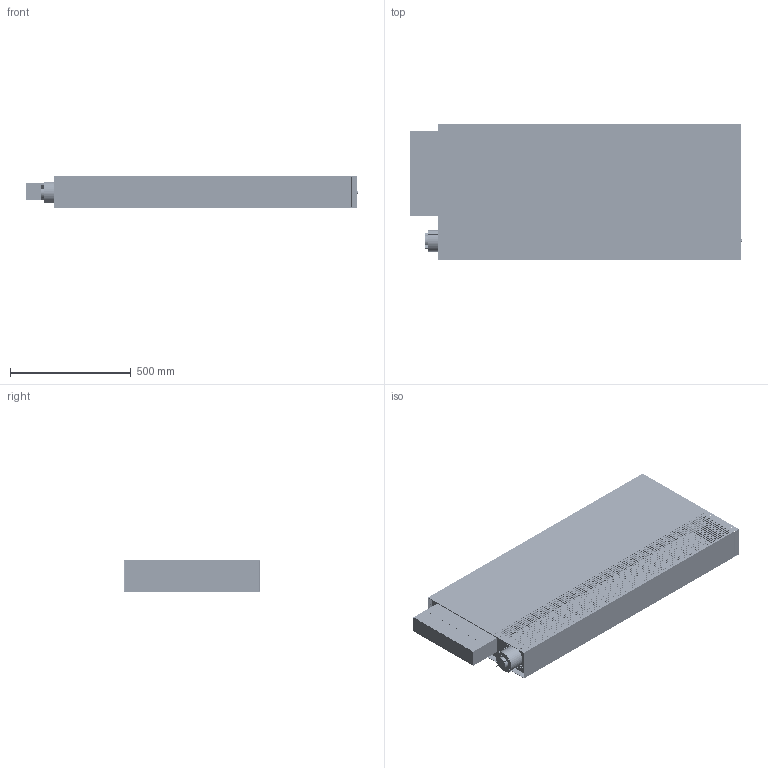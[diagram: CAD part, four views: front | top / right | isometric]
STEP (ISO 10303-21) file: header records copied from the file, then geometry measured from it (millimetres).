
FILE_DESCRIPTION (( 'STEP AP214' ), '1' );
FILE_NAME ('PFWSLA-05.STEP', '2024-09-29T14:18:00', ( '' ), ( '' ), 'SwSTEP 2.0', 'SolidWorks 2023', '' );
FILE_SCHEMA (( 'AUTOMOTIVE_DESIGN' ));
Length unit declared in the file: inch
Products named in the file (1): PFWSLA-05
Bounding box: 1375.68 x 561.98 x 130.18 mm (x, y, z)
Volume: 23785279.3 mm3; surface area: 5581073.6 mm2
Topology: 18 solids, 18 shells, 6472 faces, 18024 edges, 12000 vertices
Faces by surface type: plane 3898, cylinder 2574
Entity records: 211586 total; most frequent: CARTESIAN_POINT 36497, DIRECTION 36122, ORIENTED_EDGE 36048, EDGE_CURVE 18024, LINE 12872, VECTOR 12872, VERTEX_POINT 12000, AXIS2_PLACEMENT_3D 11625
